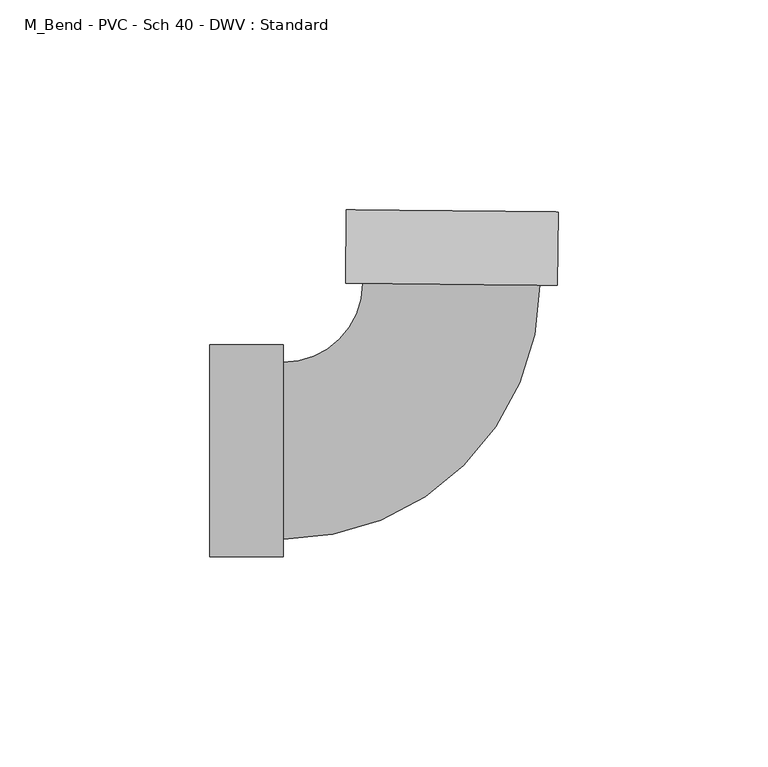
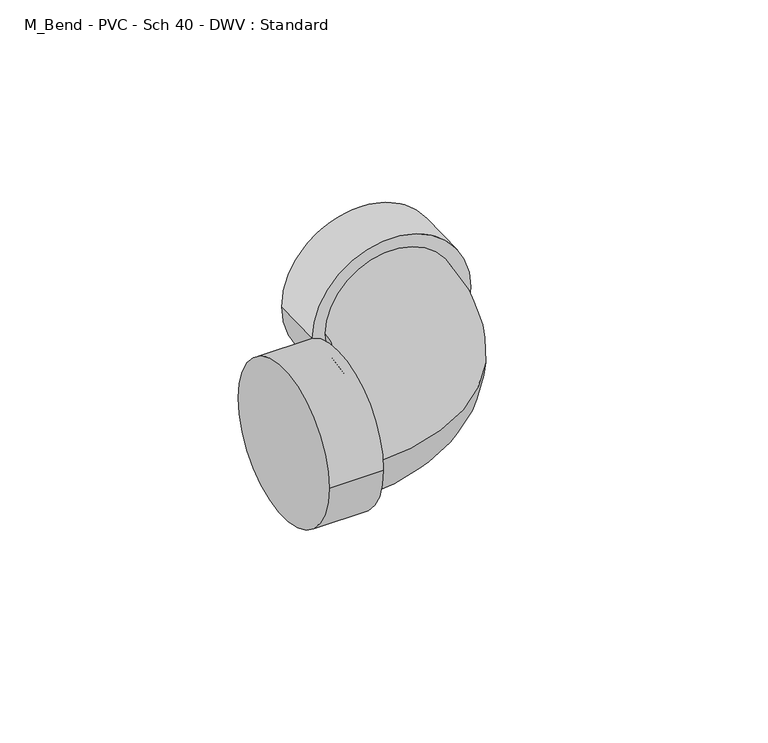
"""IFC4 building model written with IfcOpenShell, lengths in millimetres: pipe fitting geometry, M_Bend - PVC - Sch 40 - DWV : Standard."""

from ifc_helpers import new_model, si_unit, point, frame, origin, place, context, project, spatial, circle_curve, ellipse_curve, trimmed, source, transform, mapped, element, save
from ifc_brep_helpers import plane_surface, cylinder_surface, revolved_surface, advanced_brep


def m_bend_pvc_sch_40_dwv_standard_877aed9a(model_context):
    return source(origin(), model_context, "Body", "AdvancedBrep", [
        advanced_brep(
        [(-57.15, -25.2349, 0.0), (-57.15, 25.2349, 0.0), (-39.7002, -25.2349, 0.0), (-39.7002, 25.2349, 0.0), (-39.7002, -21.082, 0.0), (-39.7002, 21.082, 0.0), (-20.6839638, 39.9090246, 0.0), (21.4779281, 39.4874057, 0.0), (25.6306205, 39.4458788, 0.0), (-24.8366562, 39.9505515, 0.0), (25.8051098, 56.8948063, 0.0), (-24.6621669, 57.3994791, 0.0)],
        [
            (0, 1, circle_curve(frame((-57.15, 0.0, 0.0), z_axis=(-1.0, 0.0, 0.0), x_axis=(0.0, 1.0, 0.0)), 25.2349)),
            (1, 0, circle_curve(frame((-57.15, 0.0, 0.0), z_axis=(-1.0, 0.0, 0.0), x_axis=(0.0, 1.0, 0.0)), 25.2349)),
            (2, 3, circle_curve(frame((-39.7002, 0.0, 0.0), z_axis=(1.0, 0.0, 0.0), x_axis=(0.0, 1.0, 0.0)), 25.2349)),
            (3, 2, circle_curve(frame((-39.7002, 0.0, 0.0), z_axis=(1.0, 0.0, 0.0), x_axis=(0.0, 1.0, 0.0)), 25.2349)),
            (4, 5, circle_curve(frame((-39.7002, 0.0, 0.0), z_axis=(-1.0, 0.0, 0.0), x_axis=(0.0, 1.0, 0.0)), 21.082)),
            (5, 4, circle_curve(frame((-39.7002, 0.0, 0.0), z_axis=(-1.0, 0.0, 0.0), x_axis=(0.0, 1.0, 0.0)), 21.082)),
            (0, 2),
            (3, 1),
            (6, 5, circle_curve(frame((-39.7002, 40.099187, 0.0), z_axis=(0.0, 0.0, -1.0), x_axis=(0.0, -1.0, 0.0)), 19.017187)),
            (4, 7, circle_curve(frame((-39.7002, 40.099187, 0.0), z_axis=(0.0, 0.0, 1.0), x_axis=(0.0, -1.0, 0.0)), 61.181187)),
            (7, 6, circle_curve(frame((0.3969822, 39.6982151, 0.0), z_axis=(-0.009999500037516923, -0.9999500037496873, 0.0), x_axis=(-0.9999500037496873, 0.009999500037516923, 0.0)), 21.082)),
            (6, 7, circle_curve(frame((0.3969822, 39.6982151, 0.0), z_axis=(-0.009999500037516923, -0.9999500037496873, 0.0), x_axis=(-0.9999500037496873, 0.009999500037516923, 0.0)), 21.082)),
            (8, 9, circle_curve(frame((0.3969822, 39.6982151, 0.0), z_axis=(-0.009999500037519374, -0.9999500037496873, 0.0), x_axis=(-0.9999500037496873, 0.009999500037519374, 0.0)), 25.2349)),
            (9, 8, circle_curve(frame((0.3969822, 39.6982151, 0.0), z_axis=(-0.009999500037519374, -0.9999500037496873, 0.0), x_axis=(-0.9999500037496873, 0.009999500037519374, 0.0)), 25.2349)),
            (10, 11, circle_curve(frame((0.5714714, 57.1471427, 0.0), z_axis=(0.009999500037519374, 0.9999500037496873, 0.0), x_axis=(-0.9999500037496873, 0.009999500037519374, 0.0)), 25.2349)),
            (11, 10, circle_curve(frame((0.5714714, 57.1471427, 0.0), z_axis=(0.009999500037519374, 0.9999500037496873, 0.0), x_axis=(-0.9999500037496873, 0.009999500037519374, 0.0)), 25.2349)),
            (8, 10),
            (11, 9),
        ],
        [
            plane_surface(frame((-57.15, 0.0, 0.0), z_axis=(-1.0, 0.0, 0.0), x_axis=(0.0, 0.0, 1.0))),
            plane_surface(frame((-39.7002, 0.0, 0.0), z_axis=(1.0, 0.0, 0.0), x_axis=(0.0, 0.0, 1.0))),
            cylinder_surface(frame((-57.15, 0.0, 0.0), z_axis=(-1.0, 0.0, 0.0), x_axis=(0.0, 1.0, 0.0)), 25.2349),
            revolved_surface(trimmed(ellipse_curve(frame((-39.7002, 0.0, 0.0), z_axis=(-1.0, 0.0, 0.0), x_axis=(0.0, 1.0, 0.0)), 21.082, 21.082), [point((-39.7002, -21.082, 0.0))], [point((-39.7002, 21.082, 0.0))], True, "CARTESIAN"), (-39.7002, 40.099187, 0.0), (0.0, 0.0, 1.0)),
            revolved_surface(trimmed(ellipse_curve(frame((-39.7002, 0.0, 0.0), z_axis=(-1.0, 0.0, 0.0), x_axis=(0.0, 1.0, 0.0)), 21.082, 21.082), [point((-39.7002, 21.082, 0.0))], [point((-39.7002, -21.082, 0.0))], True, "CARTESIAN"), (-39.7002, 40.099187, 0.0), (0.0, 0.0, 1.0)),
            plane_surface(frame((0.3969822, 39.6982151, 0.0), z_axis=(-0.009999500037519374, -0.9999500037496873, 0.0), x_axis=(0.0, 0.0, 1.0))),
            plane_surface(frame((0.5714714, 57.1471427, 0.0), z_axis=(0.009999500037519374, 0.9999500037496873, 0.0), x_axis=(0.0, 0.0, 1.0))),
            cylinder_surface(frame((0.3969822, 39.6982151, 0.0), z_axis=(-0.009999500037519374, -0.9999500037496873, 0.0), x_axis=(-0.9999500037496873, 0.009999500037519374, 0.0)), 25.2349),
        ],
        [
            (0, [[1, 2]]),
            (1, [[3, 4], [5, 6]]),
            (2, [[-1, 7, -4, 8]]),
            (2, [[-2, -8, -3, -7]]),
            (3, [[9, -5, 10, 11]]),
            (4, [[-9, 12, -10, -6]]),
            (5, [[13, 14], [-11, -12]]),
            (6, [[15, 16]]),
            (7, [[-13, 17, -16, 18]]),
            (7, [[-14, -18, -15, -17]]),
        ],
    ),
    ])


if __name__ == "__main__":
    model = new_model("IFC4")
    model_context = context("Model", 3, world=origin())
    ifc_project = project(units=[si_unit("LENGTHUNIT", "METRE", prefix="MILLI")], contexts=[model_context])
    site = spatial("IfcSite", under=ifc_project)
    building = spatial("IfcBuilding", under=site)
    placement = place(None, origin())
    m_bend_pvc_sch_40_dwv_standard_shape = m_bend_pvc_sch_40_dwv_standard_877aed9a(model_context)
    element("IfcPipeFitting", 1, ObjectType="M_Bend - PVC - Sch 40 - DWV : Standard", at=placement, inside=building, context=model_context, shape_type="MappedRepresentation", body=[
        mapped(m_bend_pvc_sch_40_dwv_standard_shape, transform((0.0, 0.0, 0.0), x_axis=(1.0, 0.0, 0.0), y_axis=(0.0, 1.0, 0.0), z_axis=(0.0, 0.0, 1.0))),
    ])
    save(model, "model.ifc")
